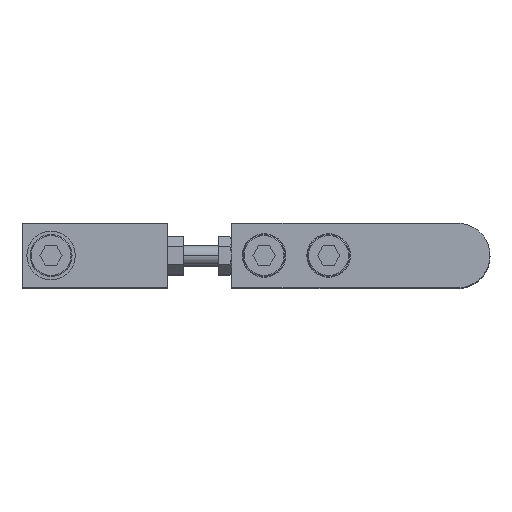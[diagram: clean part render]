
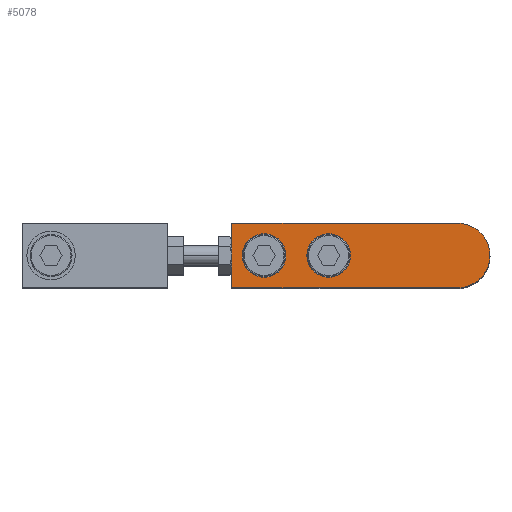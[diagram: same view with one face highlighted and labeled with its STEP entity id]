
A CAD part, top view. The second image highlights one B-rep face of the part: STEP entity #5078.
In plain terms, the highlighted planar face has unit normal (0, 0, 1) as drawn and (0, 0, -1) by its records, which use the part's own axes.
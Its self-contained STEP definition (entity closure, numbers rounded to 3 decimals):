
#11 = LINE ( 'NONE', #6127, #1193 ) ;
#77 = ORIENTED_EDGE ( 'NONE', *, *, #1476, .F. ) ;
#145 = EDGE_CURVE ( 'NONE', #4834, #7027, #5988, .T. ) ;
#275 = VECTOR ( 'NONE', #975, 1000. ) ;
#392 = CARTESIAN_POINT ( 'NONE',  ( 70., 10., -5. ) ) ;
#527 = FACE_BOUND ( 'NONE', #2357, .T. ) ;
#533 = CARTESIAN_POINT ( 'NONE',  ( 60., 0., -5. ) ) ;
#665 = CIRCLE ( 'NONE', #5637, 6.75 ) ;
#810 = VERTEX_POINT ( 'NONE', #3020 ) ;
#817 = CIRCLE ( 'NONE', #4104, 6.75 ) ;
#881 = DIRECTION ( 'NONE',  ( 0., 0., -1. ) ) ;
#900 = CARTESIAN_POINT ( 'NONE',  ( -10., 0., -5. ) ) ;
#975 = DIRECTION ( 'NONE',  ( 0., 1., 0. ) ) ;
#1155 = PLANE ( 'NONE',  #4915 ) ;
#1189 = EDGE_LOOP ( 'NONE', ( #6732, #2005, #4484, #77, #2487 ) ) ;
#1193 = VECTOR ( 'NONE', #1728, 1000. ) ;
#1316 = DIRECTION ( 'NONE',  ( 0., 0., 1. ) ) ;
#1476 = EDGE_CURVE ( 'NONE', #7027, #5916, #4905, .T. ) ;
#1543 = ORIENTED_EDGE ( 'NONE', *, *, #7093, .F. ) ;
#1573 = EDGE_CURVE ( 'NONE', #5146, #810, #665, .T. ) ;
#1641 = AXIS2_PLACEMENT_3D ( 'NONE', #533, #2175, #2757 ) ;
#1728 = DIRECTION ( 'NONE',  ( -1., 0., 0. ) ) ;
#1885 = DIRECTION ( 'NONE',  ( 1., 0., 0. ) ) ;
#2005 = ORIENTED_EDGE ( 'NONE', *, *, #3955, .F. ) ;
#2044 = CARTESIAN_POINT ( 'NONE',  ( 60., 0., -5. ) ) ;
#2063 = ORIENTED_EDGE ( 'NONE', *, *, #1573, .F. ) ;
#2064 = FACE_BOUND ( 'NONE', #5904, .T. ) ;
#2175 = DIRECTION ( 'NONE',  ( 0., 0., -1. ) ) ;
#2231 = CARTESIAN_POINT ( 'NONE',  ( 40., 0., -5. ) ) ;
#2232 = DIRECTION ( 'NONE',  ( -1., 0., 0. ) ) ;
#2357 = EDGE_LOOP ( 'NONE', ( #2063, #4464 ) ) ;
#2487 = ORIENTED_EDGE ( 'NONE', *, *, #145, .F. ) ;
#2550 = CARTESIAN_POINT ( 'NONE',  ( 70., -10., -5. ) ) ;
#2671 = DIRECTION ( 'NONE',  ( 1., 0., 0. ) ) ;
#2757 = DIRECTION ( 'NONE',  ( -1., 0., 0. ) ) ;
#2820 = DIRECTION ( 'NONE',  ( 0., 0., -1. ) ) ;
#3020 = CARTESIAN_POINT ( 'NONE',  ( 46.75, 0., -5. ) ) ;
#3171 = AXIS2_PLACEMENT_3D ( 'NONE', #3609, #1316, #1885 ) ;
#3248 = DIRECTION ( 'NONE',  ( 1., 0., 0. ) ) ;
#3322 = CARTESIAN_POINT ( 'NONE',  ( 0., -10., -5. ) ) ;
#3348 = DIRECTION ( 'NONE',  ( 0., 0., -1. ) ) ;
#3494 = CARTESIAN_POINT ( 'NONE',  ( 33.25, 0., -5. ) ) ;
#3498 = CIRCLE ( 'NONE', #1641, 6.75 ) ;
#3517 = CARTESIAN_POINT ( 'NONE',  ( 0., 0., -5. ) ) ;
#3539 = ORIENTED_EDGE ( 'NONE', *, *, #5566, .F. ) ;
#3609 = CARTESIAN_POINT ( 'NONE',  ( 0., 0., -5. ) ) ;
#3742 = DIRECTION ( 'NONE',  ( -1., 0., 0. ) ) ;
#3856 = EDGE_CURVE ( 'NONE', #5916, #5506, #4093, .T. ) ;
#3895 = AXIS2_PLACEMENT_3D ( 'NONE', #6107, #5614, #2671 ) ;
#3955 = EDGE_CURVE ( 'NONE', #5506, #5267, #11, .T. ) ;
#4044 = EDGE_CURVE ( 'NONE', #810, #5146, #817, .T. ) ;
#4049 = CIRCLE ( 'NONE', #3895, 10. ) ;
#4093 = LINE ( 'NONE', #392, #275 ) ;
#4104 = AXIS2_PLACEMENT_3D ( 'NONE', #5727, #2820, #2232 ) ;
#4383 = CIRCLE ( 'NONE', #6673, 6.75 ) ;
#4464 = ORIENTED_EDGE ( 'NONE', *, *, #4044, .F. ) ;
#4484 = ORIENTED_EDGE ( 'NONE', *, *, #3856, .F. ) ;
#4501 = FACE_OUTER_BOUND ( 'NONE', #1189, .T. ) ;
#4646 = DIRECTION ( 'NONE',  ( 0., 0., 1. ) ) ;
#4696 = CARTESIAN_POINT ( 'NONE',  ( 0., 10., -5. ) ) ;
#4797 = VERTEX_POINT ( 'NONE', #6471 ) ;
#4834 = VERTEX_POINT ( 'NONE', #900 ) ;
#4905 = LINE ( 'NONE', #3322, #5706 ) ;
#4915 = AXIS2_PLACEMENT_3D ( 'NONE', #3517, #4646, #5229 ) ;
#5078 = ADVANCED_FACE ( 'NONE', ( #2064, #527, #4501 ), #1155, .F. ) ;
#5146 = VERTEX_POINT ( 'NONE', #3494 ) ;
#5229 = DIRECTION ( 'NONE',  ( 1., 0., 0. ) ) ;
#5266 = CARTESIAN_POINT ( 'NONE',  ( 0., -10., -5. ) ) ;
#5267 = VERTEX_POINT ( 'NONE', #4696 ) ;
#5450 = CARTESIAN_POINT ( 'NONE',  ( 53.25, 0., -5. ) ) ;
#5506 = VERTEX_POINT ( 'NONE', #6687 ) ;
#5566 = EDGE_CURVE ( 'NONE', #4797, #6572, #3498, .T. ) ;
#5614 = DIRECTION ( 'NONE',  ( 0., 0., 1. ) ) ;
#5637 = AXIS2_PLACEMENT_3D ( 'NONE', #2231, #3348, #5649 ) ;
#5649 = DIRECTION ( 'NONE',  ( -1., 0., 0. ) ) ;
#5706 = VECTOR ( 'NONE', #3248, 1000. ) ;
#5727 = CARTESIAN_POINT ( 'NONE',  ( 40., 0., -5. ) ) ;
#5904 = EDGE_LOOP ( 'NONE', ( #1543, #3539 ) ) ;
#5916 = VERTEX_POINT ( 'NONE', #2550 ) ;
#5955 = EDGE_CURVE ( 'NONE', #5267, #4834, #4049, .T. ) ;
#5988 = CIRCLE ( 'NONE', #3171, 10. ) ;
#6107 = CARTESIAN_POINT ( 'NONE',  ( 0., 0., -5. ) ) ;
#6127 = CARTESIAN_POINT ( 'NONE',  ( 0., 10., -5. ) ) ;
#6471 = CARTESIAN_POINT ( 'NONE',  ( 66.75, 0., -5. ) ) ;
#6572 = VERTEX_POINT ( 'NONE', #5450 ) ;
#6673 = AXIS2_PLACEMENT_3D ( 'NONE', #2044, #881, #3742 ) ;
#6687 = CARTESIAN_POINT ( 'NONE',  ( 70., 10., -5. ) ) ;
#6732 = ORIENTED_EDGE ( 'NONE', *, *, #5955, .F. ) ;
#7027 = VERTEX_POINT ( 'NONE', #5266 ) ;
#7093 = EDGE_CURVE ( 'NONE', #6572, #4797, #4383, .T. ) ;
